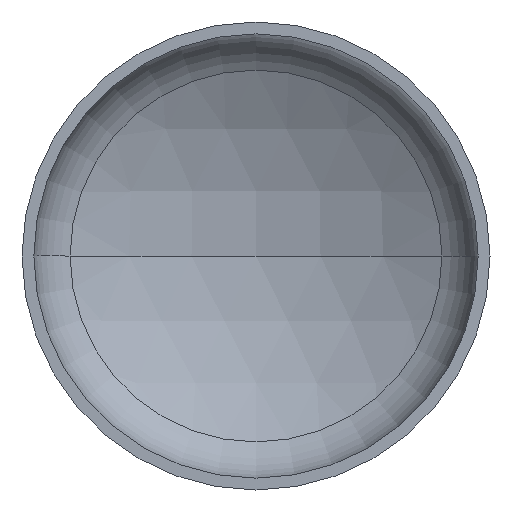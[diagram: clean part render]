
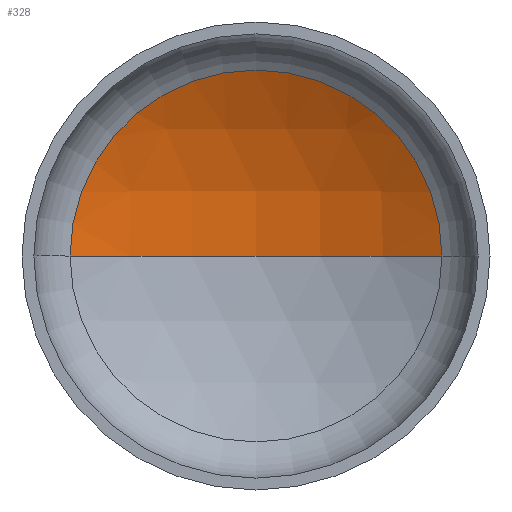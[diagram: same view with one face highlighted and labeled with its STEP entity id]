
A CAD part, front view. The second image highlights one B-rep face of the part: STEP entity #328.
In plain terms, the highlighted spherical face has radius 3040 mm.
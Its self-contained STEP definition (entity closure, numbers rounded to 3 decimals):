
#12 = AXIS2_PLACEMENT_3D ( 'NONE', #150, #227, #339 ) ;
#18 = AXIS2_PLACEMENT_3D ( 'NONE', #132, #230, #390 ) ;
#19 = AXIS2_PLACEMENT_3D ( 'NONE', #131, #125, #126 ) ;
#20 = AXIS2_PLACEMENT_3D ( 'NONE', #32, #145, #158 ) ;
#27 = EDGE_LOOP ( 'NONE', ( #171, #95, #84 ) ) ;
#32 = CARTESIAN_POINT ( 'NONE',  ( 0., -2030.977, 0. ) ) ;
#70 = VERTEX_POINT ( 'NONE', #232 ) ;
#84 = ORIENTED_EDGE ( 'NONE', *, *, #356, .T. ) ;
#86 = CIRCLE ( 'NONE', #19, 3040. ) ;
#95 = ORIENTED_EDGE ( 'NONE', *, *, #340, .T. ) ;
#125 = DIRECTION ( 'NONE',  ( 0., 0., -1. ) ) ;
#126 = DIRECTION ( 'NONE',  ( -1., 0., 0. ) ) ;
#128 = VERTEX_POINT ( 'NONE', #228 ) ;
#131 = CARTESIAN_POINT ( 'NONE',  ( 0., -2030.977, 0. ) ) ;
#132 = CARTESIAN_POINT ( 'NONE',  ( 0., -2030.977, 0. ) ) ;
#145 = DIRECTION ( 'NONE',  ( 0., 0., -1. ) ) ;
#150 = CARTESIAN_POINT ( 'NONE',  ( 0., 607.789, 0. ) ) ;
#153 = CARTESIAN_POINT ( 'NONE',  ( 1509.475, 607.789, 0. ) ) ;
#158 = DIRECTION ( 'NONE',  ( -1., 0., 0. ) ) ;
#171 = ORIENTED_EDGE ( 'NONE', *, *, #343, .F. ) ;
#178 = VERTEX_POINT ( 'NONE', #153 ) ;
#216 = CIRCLE ( 'NONE', #18, 3040. ) ;
#227 = DIRECTION ( 'NONE',  ( 0., -1., 0. ) ) ;
#228 = CARTESIAN_POINT ( 'NONE',  ( 0., 1009.023, 0. ) ) ;
#230 = DIRECTION ( 'NONE',  ( 0., 0., 1. ) ) ;
#232 = CARTESIAN_POINT ( 'NONE',  ( -1509.475, 607.789, 0. ) ) ;
#272 = SPHERICAL_SURFACE ( 'NONE', #20, 3040. ) ;
#311 = CIRCLE ( 'NONE', #12, 1509.475 ) ;
#328 = ADVANCED_FACE ( 'NONE', ( #392 ), #272, .F. ) ;
#339 = DIRECTION ( 'NONE',  ( 1., 0., 0. ) ) ;
#340 = EDGE_CURVE ( 'NONE', #128, #178, #86, .T. ) ;
#343 = EDGE_CURVE ( 'NONE', #128, #70, #216, .T. ) ;
#356 = EDGE_CURVE ( 'NONE', #178, #70, #311, .T. ) ;
#390 = DIRECTION ( 'NONE',  ( 1., 0., 0. ) ) ;
#392 = FACE_OUTER_BOUND ( 'NONE', #27, .T. ) ;
